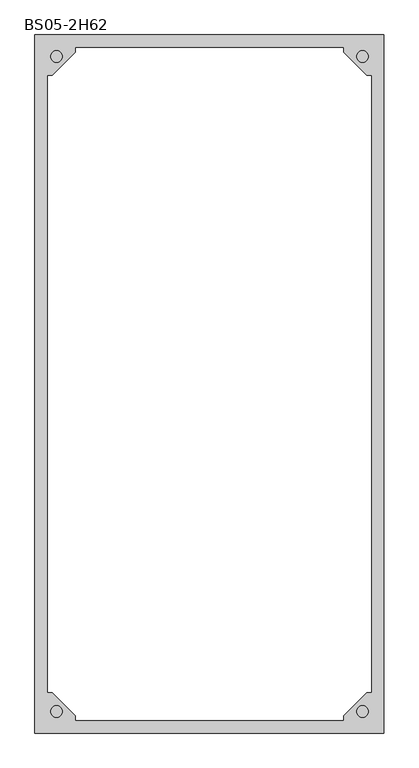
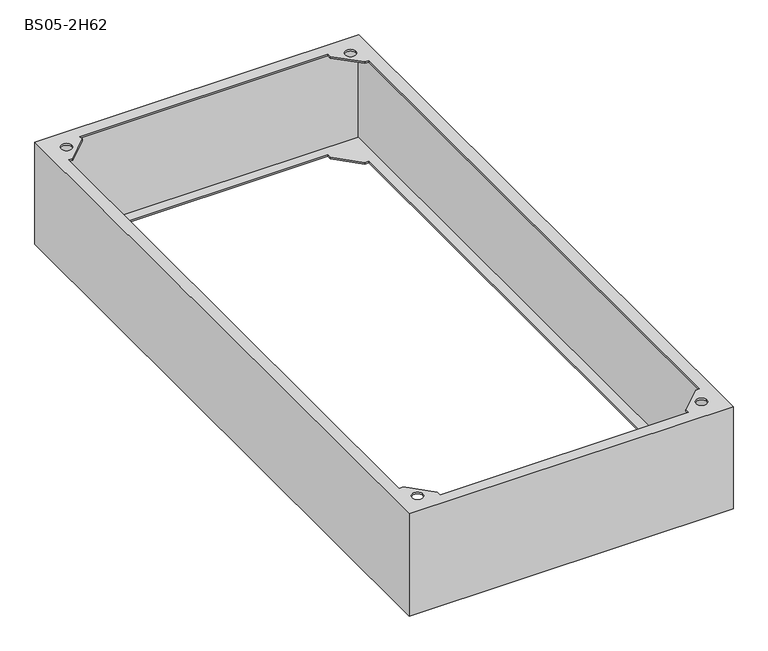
"""IFC4 building model written with IfcOpenShell, lengths in millimetres: proxy geometry, Цоколь для напольных шкафов : BS05-2H62."""

import ifcopenshell
import ifcopenshell.guid

model = None  # the IFC model being written
_history = None  # IfcOwnerHistory: only IFC2X3 demands one
_inside = {}  # id of a spatial element -> (the spatial element, [elements in it])
_under = {}  # id of a project, library or spatial element -> (it, [spatial elements below it])
_declared = {}  # id of a project -> (the project, [libraries it declares])
_typed = {}  # id of a type object -> (the type object, [elements of that type])
_made_of = {}  # id of a material, layer set ... -> (it, [elements and type objects made of it])


def new_model(schema):
    """Start an empty IFC model of exactly this schema.

    Asked for "IFC4X3", IfcOpenShell would pick the latest addendum, in which some entities
    have other attributes; the version numbers below select the first issue.
    IFC2X3 requires an IfcOwnerHistory on every rooted entity: one is made here for all.
    """
    global model, _history
    if schema == "IFC4X3":
        model = ifcopenshell.file(schema_version=(4, 3, 0, 0))
    else:
        model = ifcopenshell.file(schema=schema)
    _inside.clear()
    _under.clear()
    _declared.clear()
    _typed.clear()
    _made_of.clear()
    _history = None
    if model.schema == "IFC2X3":
        org = make("IfcOrganization", Name="unknown")
        user = make(
            "IfcPersonAndOrganization",
            ThePerson=make("IfcPerson", FamilyName="unknown"),
            TheOrganization=org,
        )
        app = make(
            "IfcApplication",
            ApplicationDeveloper=org,
            Version="unknown",
            ApplicationFullName="unknown",
            ApplicationIdentifier="unknown",
        )
        _history = make(
            "IfcOwnerHistory",
            OwningUser=user,
            OwningApplication=app,
            ChangeAction="ADDED",
            CreationDate=0,
        )
    return model


def make(cls, **values):
    """One entity of the class cls with the attributes given. An attribute that is None is left unset."""
    return model.create_entity(
        cls, **{name: value for name, value in values.items() if value is not None}
    )


def rooted(cls, **values):
    """An entity with a GlobalId (a new one), such as an element, a storey or a relation."""
    return make(cls, GlobalId=ifcopenshell.guid.new(), OwnerHistory=_history, **values)


def si_unit(unit_type, name, prefix=None):
    """IfcSIUnit, for example si_unit("LENGTHUNIT", "METRE", prefix="MILLI")."""
    return make("IfcSIUnit", UnitType=unit_type, Prefix=prefix, Name=name)


def assignment(units):
    """IfcUnitAssignment: the units of a project."""
    return None if units is None else make("IfcUnitAssignment", Units=units)


def point(xyz):
    """IfcCartesianPoint."""
    return None if xyz is None else make("IfcCartesianPoint", Coordinates=xyz)


def direction(xyz):
    """IfcDirection."""
    return None if xyz is None else make("IfcDirection", DirectionRatios=xyz)


def frame(location, z_axis=None, x_axis=None):
    """IfcAxis2Placement3D, a coordinate frame: its origin and axes. An axis left out is left unset."""
    return make(
        "IfcAxis2Placement3D",
        Location=point(location),
        Axis=direction(z_axis),
        RefDirection=direction(x_axis),
    )


def origin():
    """The frame at (0, 0, 0) with its axes left unset."""
    return frame((0.0, 0.0, 0.0))


def place(relative_to, where):
    """IfcLocalPlacement: puts the frame where relative to a parent placement (None: the world)."""
    return make(
        "IfcLocalPlacement", PlacementRelTo=relative_to, RelativePlacement=where
    )


def context(
    kind, dimensions, precision=None, world=None, true_north=None, identifier=None
):
    """IfcGeometricRepresentationContext, for example the 3D "Model" context."""
    return make(
        "IfcGeometricRepresentationContext",
        ContextIdentifier=identifier,
        ContextType=kind,
        CoordinateSpaceDimension=dimensions,
        Precision=precision,
        WorldCoordinateSystem=world,
        TrueNorth=true_north,
    )


def project(units=None, contexts=None):
    """IfcProject with its units and contexts."""
    return rooted(
        "IfcProject",
        Name="project",
        RepresentationContexts=contexts,
        UnitsInContext=assignment(units),
    )


def spatial(cls, under=None, at=None, **own):
    """A site, building, storey or space (cls), placed at a placement, below another one or the project."""
    s = rooted(cls, ObjectPlacement=at, **own)
    if under is not None:
        _under.setdefault(under.id(), (under, []))[1].append(s)
    return s


def polyline(points):
    """IfcPolyline through the points."""
    return make("IfcPolyline", Points=[point(p) for p in points])


def circle_curve(where, radius):
    """IfcCircle in the frame where."""
    return make("IfcCircle", Position=where, Radius=radius)


def shape(context_of_items, identifier, shape_type, items):
    """IfcShapeRepresentation: the items that make up one representation, for example the "Body"."""
    return make(
        "IfcShapeRepresentation",
        ContextOfItems=context_of_items,
        RepresentationIdentifier=identifier,
        RepresentationType=shape_type,
        Items=items,
    )


def source(mapping_origin, context_of_items, identifier, shape_type, items):
    """IfcRepresentationMap: a shape defined once, which mapped items show again and again."""
    return make(
        "IfcRepresentationMap",
        MappingOrigin=mapping_origin,
        MappedRepresentation=shape(context_of_items, identifier, shape_type, items),
    )


def transform(
    local_origin,
    x_axis=None,
    y_axis=None,
    z_axis=None,
    scale=None,
    scale2=None,
    scale3=None,
    uniform=True,
):
    """IfcCartesianTransformationOperator3D, or its non-uniform kind. x_axis, y_axis, z_axis: its Axis1, 2, 3."""
    if uniform:
        return make(
            "IfcCartesianTransformationOperator3D",
            Axis1=direction(x_axis),
            Axis2=direction(y_axis),
            LocalOrigin=point(local_origin),
            Scale=scale,
            Axis3=direction(z_axis),
        )
    return make(
        "IfcCartesianTransformationOperator3DnonUniform",
        Axis1=direction(x_axis),
        Axis2=direction(y_axis),
        LocalOrigin=point(local_origin),
        Scale=scale,
        Axis3=direction(z_axis),
        Scale2=scale2,
        Scale3=scale3,
    )


def mapped(mapping_source, mapping_target):
    """IfcMappedItem: shows the shape of a source again, moved by a transform."""
    return make(
        "IfcMappedItem", MappingSource=mapping_source, MappingTarget=mapping_target
    )


def made_of(thing, what):
    """Note that an element or type object is made of a material, layer set ...; save() writes the relation."""
    if what is not None:
        _made_of.setdefault(what.id(), (what, []))[1].append(thing)
    return thing


def element(
    cls,
    number,
    at=None,
    inside=None,
    cuts=None,
    type_object=None,
    material=None,
    context=None,
    identifier="Body",
    shape_type=None,
    held_by="IfcProductDefinitionShape",
    body=None,
    shapes=None,
    **own,
):
    """One element of the class cls, such as IfcWall. Its Tag is "e" and its number.

    at: its placement. inside: the storey or other place that contains it. cuts: it is an
    opening in that element (IfcRelVoidsElement). A single representation is given by context,
    identifier, shape_type and body (its items); several are given by shapes. held_by: the class
    of the entity that holds the representations. save() writes the other relations.
    """
    e = rooted(cls, Tag="e%d" % number, ObjectPlacement=at, **own)
    if body is not None:
        shapes = [shape(context, identifier, shape_type, body)]
    if shapes is not None:
        e.Representation = make(held_by, Representations=shapes)
    if inside is not None:
        _inside.setdefault(inside.id(), (inside, []))[1].append(e)
    if cuts is not None:
        rooted(
            "IfcRelVoidsElement", RelatingBuildingElement=cuts, RelatedOpeningElement=e
        )
    if type_object is not None:
        _typed.setdefault(type_object.id(), (type_object, []))[1].append(e)
    return made_of(e, material)


def aggregate(whole, parts):
    """IfcRelAggregates: a whole, such as a stair, and the parts it consists of."""
    return rooted("IfcRelAggregates", RelatingObject=whole, RelatedObjects=parts)


def save(model, path):
    """Write the relations noted so far, then the file.

    IfcRelAggregates (storeys below a building ...), IfcRelContainedInSpatialStructure (elements
    in a storey), IfcRelDefinesByType, IfcRelAssociatesMaterial and IfcRelDeclares: one each for
    every whole, place, type object, material and project.
    """
    for whole, parts in _under.values():
        aggregate(whole, parts)
    for where, things in _inside.values():
        rooted(
            "IfcRelContainedInSpatialStructure",
            RelatedElements=things,
            RelatingStructure=where,
        )
    for kind, things in _typed.values():
        rooted("IfcRelDefinesByType", RelatedObjects=things, RelatingType=kind)
    for what, things in _made_of.values():
        rooted("IfcRelAssociatesMaterial", RelatedObjects=things, RelatingMaterial=what)
    for by, libraries in _declared.values():
        rooted("IfcRelDeclares", RelatingContext=by, RelatedDefinitions=libraries)
    model.write(path)


def plane_surface(at):
    """IfcPlane: the flat surface through the origin of the frame at, square to its z axis."""
    return make("IfcPlane", Position=at)


def revolved_surface(curve, axis_point, axis_direction):
    """IfcSurfaceOfRevolution: the curve turned about the line through axis_point along axis_direction."""
    return make(
        "IfcSurfaceOfRevolution",
        SweptCurve=make("IfcArbitraryOpenProfileDef", ProfileType="CURVE", Curve=curve),
        AxisPosition=make("IfcAxis1Placement", Location=point(axis_point), Axis=direction(axis_direction)),
    )


def advanced_brep(points, edges, surfaces, faces):
    """IfcAdvancedBrep: a solid bounded by faces that lie on surfaces and meet in shared edges.

    An edge is (start, end): straight between two places in points (the first is 0);
    or (start, end, curve); or (start, end, curve, False) where it runs against its curve.
    A face is (place in surfaces, loops), or (place, loops, False) where it looks against
    its surface's normal. A loop lists edges by number (the first is 1), with a minus sign
    where the edge is run from its end to its start. The first loop is the outer one.
    """
    corners = [point(p) for p in points]
    vertices = [make("IfcVertexPoint", VertexGeometry=c) for c in corners]
    made = []
    for start, end, *more in edges:
        made.append(
            make(
                "IfcEdgeCurve",
                EdgeStart=vertices[start],
                EdgeEnd=vertices[end],
                EdgeGeometry=more[0] if more else make("IfcPolyline", Points=[corners[start], corners[end]]),
                SameSense=more[1] if len(more) > 1 else True,
            )
        )
    hull = []
    for where, loops, *sense in faces:
        bounds = []
        for j, loop in enumerate(loops):
            ring = [make("IfcOrientedEdge", EdgeElement=made[abs(k) - 1], Orientation=k > 0) for k in loop]
            bounds.append(
                make(
                    "IfcFaceOuterBound" if j == 0 else "IfcFaceBound",
                    Bound=make("IfcEdgeLoop", EdgeList=ring),
                    Orientation=True,
                )
            )
        hull.append(make("IfcAdvancedFace", Bounds=bounds, FaceSurface=surfaces[where], SameSense=sense[0] if sense else True))
    return make("IfcAdvancedBrep", Outer=make("IfcClosedShell", CfsFaces=hull))


def bs05_2h62_645fab27(model_context):
    return source(origin(), model_context, "Body", "AdvancedBrep", [
        advanced_brep(
        [(300.0, -600.0, 200.0), (300.0, -600.0, 197.0), (300.0, -600.0, 3.0), (300.0, -600.0, 0.0), (300.0, 600.0, 0.0), (300.0, 600.0, 3.0), (300.0, 600.0, 197.0), (300.0, 600.0, 200.0), (278.0, 530.0, 0.0), (278.0, -530.0, 0.0), (278.0, -530.0, 3.0), (278.0, 530.0, 3.0), (297.0, 597.0, 197.0), (297.0, 597.0, 3.0), (297.0, -597.0, 3.0), (297.0, -597.0, 197.0), (278.0, 530.0, 197.0), (278.0, -530.0, 197.0), (278.0, -530.0, 200.0), (278.0, 530.0, 200.0), (-300.0, -600.0, 200.0), (-300.0, -600.0, 197.0), (-300.0, -600.0, 3.0), (-300.0, -600.0, 0.0), (230.0, -578.0, 0.0), (-230.0, -578.0, 0.0), (-230.0, -578.0, 3.0), (230.0, -578.0, 3.0), (-297.0, -597.0, 3.0), (-297.0, -597.0, 197.0), (230.0, -578.0, 197.0), (-230.0, -578.0, 197.0), (-230.0, -578.0, 200.0), (230.0, -578.0, 200.0), (-300.0, 600.0, 200.0), (-300.0, 600.0, 197.0), (-300.0, 600.0, 3.0), (-300.0, 600.0, 0.0), (-278.0, -530.0, 0.0), (-278.0, 530.0, 0.0), (-278.0, 530.0, 3.0), (-278.0, -530.0, 3.0), (-297.0, 597.0, 3.0), (-297.0, 597.0, 197.0), (-278.0, -530.0, 197.0), (-278.0, 530.0, 197.0), (-278.0, 530.0, 200.0), (-278.0, -530.0, 200.0), (-230.0, -570.0, 200.0), (-270.0, -530.0, 200.0), (-270.0, 530.0, 200.0), (-230.0, 570.0, 200.0), (-230.0, 578.0, 200.0), (230.0, 578.0, 200.0), (230.0, 570.0, 200.0), (270.0, 530.0, 200.0), (270.0, -530.0, 200.0), (230.0, -570.0, 200.0), (-252.9289322, -562.9289322, 200.0), (-272.9289322, -562.9289322, 200.0), (272.9289322, -562.9289322, 200.0), (252.9289322, -562.9289322, 200.0), (-252.9289322, 562.9289322, 200.0), (-272.9289322, 562.9289322, 200.0), (272.9289322, 562.9289322, 200.0), (252.9289322, 562.9289322, 200.0), (270.0, 530.0, 0.0), (230.0, 570.0, 0.0), (230.0, 578.0, 0.0), (-230.0, 578.0, 0.0), (-230.0, 570.0, 0.0), (-270.0, 530.0, 0.0), (-270.0, -530.0, 0.0), (-230.0, -570.0, 0.0), (230.0, -570.0, 0.0), (270.0, -530.0, 0.0), (230.0, 578.0, 3.0), (-230.0, 578.0, 3.0), (270.0, -530.0, 3.0), (230.0, -570.0, 3.0), (-230.0, -570.0, 3.0), (-270.0, -530.0, 3.0), (-270.0, 530.0, 3.0), (-230.0, 570.0, 3.0), (230.0, 570.0, 3.0), (270.0, 530.0, 3.0), (-270.0, -530.0, 197.0), (-230.0, -570.0, 197.0), (230.0, -570.0, 197.0), (270.0, -530.0, 197.0), (270.0, 530.0, 197.0), (230.0, 570.0, 197.0), (230.0, 578.0, 197.0), (-230.0, 578.0, 197.0), (-230.0, 570.0, 197.0), (-270.0, 530.0, 197.0), (-252.9289322, -562.9289322, 197.0), (-272.9289322, -562.9289322, 197.0), (272.9289322, -562.9289322, 197.0), (252.9289322, -562.9289322, 197.0), (-252.9289322, 562.9289322, 197.0), (-272.9289322, 562.9289322, 197.0), (272.9289322, 562.9289322, 197.0), (252.9289322, 562.9289322, 197.0)],
        [
            (0, 1),
            (1, 2),
            (2, 3),
            (3, 4),
            (4, 5),
            (5, 6),
            (6, 7),
            (7, 0),
            (8, 9),
            (9, 10),
            (10, 11),
            (11, 8),
            (12, 13),
            (13, 14),
            (14, 15),
            (15, 12),
            (16, 17),
            (17, 18),
            (18, 19),
            (19, 16),
            (0, 20),
            (20, 21),
            (21, 22),
            (22, 23),
            (23, 3),
            (24, 25),
            (25, 26),
            (26, 27),
            (27, 24),
            (14, 28),
            (28, 29),
            (29, 15),
            (30, 31),
            (31, 32),
            (32, 33),
            (33, 30),
            (20, 34),
            (34, 35),
            (35, 36),
            (36, 37),
            (37, 23),
            (38, 39),
            (39, 40),
            (40, 41),
            (41, 38),
            (28, 42),
            (42, 43),
            (43, 29),
            (44, 45),
            (45, 46),
            (46, 47),
            (47, 44),
            (7, 34),
            (48, 49),
            (49, 47),
            (46, 50),
            (50, 51),
            (51, 52),
            (52, 53),
            (53, 54),
            (54, 55),
            (55, 19),
            (18, 56),
            (56, 57),
            (57, 33),
            (32, 48),
            (58, 59, circle_curve(frame((-262.9289322, -562.9289322, 200.0), z_axis=(0.0, 0.0, -1.0), x_axis=(-1.0, 0.0, 0.0)), 10.0)),
            (59, 58, circle_curve(frame((-262.9289322, -562.9289322, 200.0), z_axis=(0.0, 0.0, -1.0), x_axis=(-1.0, 0.0, 0.0)), 10.0)),
            (60, 61, circle_curve(frame((262.9289322, -562.9289322, 200.0), z_axis=(0.0, 0.0, -1.0), x_axis=(-1.0, 0.0, 0.0)), 10.0)),
            (61, 60, circle_curve(frame((262.9289322, -562.9289322, 200.0), z_axis=(0.0, 0.0, -1.0), x_axis=(-1.0, 0.0, 0.0)), 10.0)),
            (62, 63, circle_curve(frame((-262.9289322, 562.9289322, 200.0), z_axis=(0.0, 0.0, -1.0), x_axis=(-1.0, 0.0, 0.0)), 10.0)),
            (63, 62, circle_curve(frame((-262.9289322, 562.9289322, 200.0), z_axis=(0.0, 0.0, -1.0), x_axis=(-1.0, 0.0, 0.0)), 10.0)),
            (64, 65, circle_curve(frame((262.9289322, 562.9289322, 200.0), z_axis=(0.0, 0.0, -1.0), x_axis=(-1.0, 0.0, 0.0)), 10.0)),
            (65, 64, circle_curve(frame((262.9289322, 562.9289322, 200.0), z_axis=(0.0, 0.0, -1.0), x_axis=(-1.0, 0.0, 0.0)), 10.0)),
            (4, 37),
            (8, 66),
            (66, 67),
            (67, 68),
            (68, 69),
            (69, 70),
            (70, 71),
            (71, 39),
            (38, 72),
            (72, 73),
            (73, 25),
            (24, 74),
            (74, 75),
            (75, 9),
            (68, 76),
            (76, 77),
            (77, 69),
            (13, 42),
            (10, 78),
            (78, 79),
            (79, 27),
            (26, 80),
            (80, 81),
            (81, 41),
            (40, 82),
            (82, 83),
            (83, 77),
            (76, 84),
            (84, 85),
            (85, 11),
            (12, 43),
            (86, 87),
            (87, 31),
            (30, 88),
            (88, 89),
            (89, 17),
            (16, 90),
            (90, 91),
            (91, 92),
            (92, 93),
            (93, 94),
            (94, 95),
            (95, 45),
            (44, 86),
            (96, 97, circle_curve(frame((-262.9289322, -562.9289322, 197.0), z_axis=(0.0, 0.0, 1.0), x_axis=(-1.0, 0.0, 0.0)), 10.0)),
            (97, 96, circle_curve(frame((-262.9289322, -562.9289322, 197.0), z_axis=(0.0, 0.0, 1.0), x_axis=(-1.0, 0.0, 0.0)), 10.0)),
            (98, 99, circle_curve(frame((262.9289322, -562.9289322, 197.0), z_axis=(0.0, 0.0, 1.0), x_axis=(-1.0, 0.0, 0.0)), 10.0)),
            (99, 98, circle_curve(frame((262.9289322, -562.9289322, 197.0), z_axis=(0.0, 0.0, 1.0), x_axis=(-1.0, 0.0, 0.0)), 10.0)),
            (100, 101, circle_curve(frame((-262.9289322, 562.9289322, 197.0), z_axis=(0.0, 0.0, 1.0), x_axis=(-1.0, 0.0, 0.0)), 10.0)),
            (101, 100, circle_curve(frame((-262.9289322, 562.9289322, 197.0), z_axis=(0.0, 0.0, 1.0), x_axis=(-1.0, 0.0, 0.0)), 10.0)),
            (102, 103, circle_curve(frame((262.9289322, 562.9289322, 197.0), z_axis=(0.0, 0.0, 1.0), x_axis=(-1.0, 0.0, 0.0)), 10.0)),
            (103, 102, circle_curve(frame((262.9289322, 562.9289322, 197.0), z_axis=(0.0, 0.0, 1.0), x_axis=(-1.0, 0.0, 0.0)), 10.0)),
            (52, 93),
            (92, 53),
            (87, 48),
            (86, 49),
            (89, 56),
            (88, 57),
            (95, 50),
            (94, 51),
            (91, 54),
            (90, 55),
            (58, 96),
            (97, 59),
            (60, 98),
            (99, 61),
            (62, 100),
            (101, 63),
            (64, 102),
            (103, 65),
            (73, 80),
            (72, 81),
            (75, 78),
            (74, 79),
            (71, 82),
            (70, 83),
            (67, 84),
            (66, 85),
        ],
        [
            plane_surface(frame((300.0, 600.0, 200.0), z_axis=(1.0, 0.0, 0.0), x_axis=(0.0, -1.0, 0.0))),
            plane_surface(frame((278.0, 578.0, 0.0), z_axis=(-1.0, 0.0, 0.0), x_axis=(0.0, -1.0, 0.0))),
            plane_surface(frame((297.0, 597.0, 3.0), z_axis=(-1.0, 0.0, 0.0), x_axis=(0.0, -1.0, 0.0))),
            plane_surface(frame((278.0, 578.0, 197.0), z_axis=(-1.0, 0.0, 0.0), x_axis=(0.0, -1.0, 0.0))),
            plane_surface(frame((300.0, -600.0, 200.0), z_axis=(0.0, -1.0, 0.0), x_axis=(-1.0, 0.0, 0.0))),
            plane_surface(frame((278.0, -578.0, 0.0), z_axis=(0.0, 1.0, 0.0), x_axis=(-1.0, 0.0, 0.0))),
            plane_surface(frame((297.0, -597.0, 3.0), z_axis=(0.0, 1.0, 0.0), x_axis=(-1.0, 0.0, 0.0))),
            plane_surface(frame((278.0, -578.0, 197.0), z_axis=(0.0, 1.0, 0.0), x_axis=(-1.0, 0.0, 0.0))),
            plane_surface(frame((-300.0, -600.0, 200.0), z_axis=(-1.0, 0.0, 0.0), x_axis=(0.0, 1.0, 0.0))),
            plane_surface(frame((-278.0, -578.0, 0.0), z_axis=(1.0, 0.0, 0.0), x_axis=(0.0, 1.0, 0.0))),
            plane_surface(frame((-297.0, -597.0, 3.0), z_axis=(1.0, 0.0, 0.0), x_axis=(0.0, 1.0, 0.0))),
            plane_surface(frame((-278.0, -578.0, 197.0), z_axis=(1.0, 0.0, 0.0), x_axis=(0.0, 1.0, 0.0))),
            plane_surface(frame((-278.0, 578.0, 200.0), z_axis=(0.0, 0.0, 1.0), x_axis=(1.0, 0.0, 0.0))),
            plane_surface(frame((-300.0, 600.0, 200.0), z_axis=(0.0, 1.0, 0.0), x_axis=(1.0, 0.0, 0.0))),
            plane_surface(frame((-300.0, 600.0, 0.0), z_axis=(0.0, 0.0, -1.0), x_axis=(1.0, 0.0, 0.0))),
            plane_surface(frame((-278.0, 578.0, 0.0), z_axis=(0.0, -1.0, 0.0), x_axis=(1.0, 0.0, 0.0))),
            plane_surface(frame((-278.0, 578.0, 3.0), z_axis=(0.0, 0.0, 1.0), x_axis=(1.0, 0.0, 0.0))),
            plane_surface(frame((-297.0, 597.0, 3.0), z_axis=(0.0, -1.0, 0.0), x_axis=(1.0, 0.0, 0.0))),
            plane_surface(frame((-297.0, 597.0, 197.0), z_axis=(0.0, 0.0, -1.0), x_axis=(1.0, 0.0, 0.0))),
            plane_surface(frame((-278.0, 578.0, 197.0), z_axis=(0.0, -1.0, 0.0), x_axis=(1.0, 0.0, 0.0))),
            plane_surface(frame((-230.0, -600.0, 200.0), z_axis=(1.0, 0.0, 0.0), x_axis=(0.0, 0.0, -1.0))),
            plane_surface(frame((-230.0, -570.0, 200.0), z_axis=(0.7071067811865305, 0.7071067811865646, 0.0), x_axis=(0.0, 0.0, -1.0))),
            plane_surface(frame((-270.0, -530.0, 200.0), z_axis=(0.0, 1.0, 0.0), x_axis=(0.0, 0.0, -1.0))),
            plane_surface(frame((300.0, -530.0, 200.0), z_axis=(0.0, 1.0, 0.0), x_axis=(0.0, 0.0, -1.0))),
            plane_surface(frame((270.0, -530.0, 200.0), z_axis=(-0.7071067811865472, 0.7071067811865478, 0.0), x_axis=(0.0, 0.0, -1.0))),
            plane_surface(frame((230.0, -570.0, 200.0), z_axis=(-1.0, 0.0, 0.0), x_axis=(0.0, 0.0, -1.0))),
            plane_surface(frame((-300.0, 530.0, 200.0), z_axis=(0.0, -1.0, 0.0), x_axis=(0.0, 0.0, -1.0))),
            plane_surface(frame((-270.0, 530.0, 200.0), z_axis=(0.7071067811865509, -0.7071067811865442, 0.0), x_axis=(0.0, 0.0, -1.0))),
            plane_surface(frame((-230.0, 570.0, 200.0), z_axis=(1.0, 0.0, 0.0), x_axis=(0.0, 0.0, -1.0))),
            plane_surface(frame((230.0, 600.0, 200.0), z_axis=(-1.0, 0.0, 0.0), x_axis=(0.0, 0.0, -1.0))),
            plane_surface(frame((230.0, 570.0, 200.0), z_axis=(-0.7071067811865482, -0.707106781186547, 0.0), x_axis=(0.0, 0.0, -1.0))),
            plane_surface(frame((270.0, 530.0, 200.0), z_axis=(0.0, -1.0, 0.0), x_axis=(0.0, 0.0, -1.0))),
            revolved_surface(polyline([(-272.9289322, -562.9289322, 197.0), (-272.9289322, -562.9289322, 200.0)]), (-262.9289322, -562.9289322, 200.0), (0.0, 0.0, -1.0)),
            revolved_surface(polyline([(252.92893220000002, -562.9289322, 197.0), (252.92893220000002, -562.9289322, 200.0)]), (262.9289322, -562.9289322, 200.0), (0.0, 0.0, -1.0)),
            revolved_surface(polyline([(-272.9289322, 562.9289322, 197.0), (-272.9289322, 562.9289322, 200.0)]), (-262.9289322, 562.9289322, 200.0), (0.0, 0.0, -1.0)),
            revolved_surface(polyline([(252.92893220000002, 562.9289322, 197.0), (252.92893220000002, 562.9289322, 200.0)]), (262.9289322, 562.9289322, 200.0), (0.0, 0.0, -1.0)),
            plane_surface(frame((-230.0, -600.0, 3.0), z_axis=(1.0, 0.0, 0.0), x_axis=(0.0, 0.0, -1.0))),
            plane_surface(frame((-230.0, -570.0, 3.0), z_axis=(0.7071067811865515, 0.7071067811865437, 0.0), x_axis=(0.0, 0.0, -1.0))),
            plane_surface(frame((-270.0, -530.0, 3.0), z_axis=(0.0, 1.0, 0.0), x_axis=(0.0, 0.0, -1.0))),
            plane_surface(frame((300.0, -530.0, 3.0), z_axis=(0.0, 1.0, 0.0), x_axis=(0.0, 0.0, -1.0))),
            plane_surface(frame((270.0, -530.0, 3.0), z_axis=(-0.7071067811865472, 0.7071067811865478, 0.0), x_axis=(0.0, 0.0, -1.0))),
            plane_surface(frame((230.0, -570.0, 3.0), z_axis=(-1.0, 0.0, 0.0), x_axis=(0.0, 0.0, -1.0))),
            plane_surface(frame((-300.0, 530.0, 3.0), z_axis=(0.0, -1.0, 0.0), x_axis=(0.0, 0.0, -1.0))),
            plane_surface(frame((-270.0, 530.0, 3.0), z_axis=(0.7071067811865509, -0.7071067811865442, 0.0), x_axis=(0.0, 0.0, -1.0))),
            plane_surface(frame((-230.0, 570.0, 3.0), z_axis=(1.0, 0.0, 0.0), x_axis=(0.0, 0.0, -1.0))),
            plane_surface(frame((230.0, 600.0, 3.0), z_axis=(-1.0, 0.0, 0.0), x_axis=(0.0, 0.0, -1.0))),
            plane_surface(frame((230.0, 570.0, 3.0), z_axis=(-0.7071067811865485, -0.7071067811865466, 0.0), x_axis=(0.0, 0.0, -1.0))),
            plane_surface(frame((270.0, 530.0, 3.0), z_axis=(0.0, -1.0, 0.0), x_axis=(0.0, 0.0, -1.0))),
        ],
        [
            (0, [[1, 2, 3, 4, 5, 6, 7, 8]]),
            (1, [[9, 10, 11, 12]]),
            (2, [[13, 14, 15, 16]]),
            (3, [[17, 18, 19, 20]]),
            (4, [[-1, 21, 22, 23, 24, 25, -3, -2]]),
            (5, [[26, 27, 28, 29]]),
            (6, [[-15, 30, 31, 32]]),
            (7, [[33, 34, 35, 36]]),
            (8, [[-22, 37, 38, 39, 40, 41, -24, -23]]),
            (9, [[42, 43, 44, 45]]),
            (10, [[-31, 46, 47, 48]]),
            (11, [[49, 50, 51, 52]]),
            (12, [[-8, 53, -37, -21], [54, 55, -51, 56, 57, 58, 59, 60, 61, 62, -19, 63, 64, 65, -35, 66], [67, 68], [69, 70], [71, 72], [73, 74]]),
            (13, [[-38, -53, -7, -6, -5, 75, -40, -39]]),
            (14, [[-4, -25, -41, -75], [-9, 76, 77, 78, 79, 80, 81, 82, -42, 83, 84, 85, -26, 86, 87, 88]]),
            (15, [[-79, 89, 90, 91]]),
            (16, [[-14, 92, -46, -30], [-11, 93, 94, 95, -28, 96, 97, 98, -44, 99, 100, 101, -90, 102, 103, 104]]),
            (17, [[-92, -13, 105, -47]]),
            (18, [[-32, -48, -105, -16], [106, 107, -33, 108, 109, 110, -17, 111, 112, 113, 114, 115, 116, 117, -49, 118], [119, 120], [121, 122], [123, 124], [125, 126]]),
            (19, [[-59, 127, -114, 128]]),
            (20, [[129, -66, -34, -107]]),
            (21, [[-54, -129, -106, 130]]),
            (22, [[-130, -118, -52, -55]]),
            (23, [[131, -63, -18, -110]]),
            (24, [[-64, -131, -109, 132]]),
            (25, [[-132, -108, -36, -65]]),
            (26, [[133, -56, -50, -117]]),
            (27, [[-57, -133, -116, 134]]),
            (28, [[-134, -115, -127, -58]]),
            (29, [[135, -60, -128, -113]]),
            (30, [[-61, -135, -112, 136]]),
            (31, [[-136, -111, -20, -62]]),
            (32, [[-67, 137, -120, 138]]),
            (32, [[-68, -138, -119, -137]]),
            (33, [[-69, 139, -122, 140]]),
            (33, [[-70, -140, -121, -139]]),
            (34, [[-71, 141, -124, 142]]),
            (34, [[-72, -142, -123, -141]]),
            (35, [[-73, 143, -126, 144]]),
            (35, [[-74, -144, -125, -143]]),
            (36, [[145, -96, -27, -85]]),
            (37, [[-97, -145, -84, 146]]),
            (38, [[-146, -83, -45, -98]]),
            (39, [[147, -93, -10, -88]]),
            (40, [[-94, -147, -87, 148]]),
            (41, [[-148, -86, -29, -95]]),
            (42, [[149, -99, -43, -82]]),
            (43, [[-100, -149, -81, 150]]),
            (44, [[-150, -80, -91, -101]]),
            (45, [[151, -102, -89, -78]]),
            (46, [[-103, -151, -77, 152]]),
            (47, [[-152, -76, -12, -104]]),
        ],
    ),
    ])


if __name__ == "__main__":
    model = new_model("IFC4")
    model_context = context("Model", 3, world=origin())
    ifc_project = project(units=[si_unit("LENGTHUNIT", "METRE", prefix="MILLI")], contexts=[model_context])
    site = spatial("IfcSite", under=ifc_project)
    building = spatial("IfcBuilding", under=site)
    placement = place(None, origin())
    bs05_2h62_shape = bs05_2h62_645fab27(model_context)
    element("IfcBuildingElementProxy", 1, Name="Цоколь для напольных шкафов : BS05-2H62", ObjectType="Цоколь для напольных шкафов : BS05-2H62", at=placement, inside=building, context=model_context, shape_type="MappedRepresentation", body=[
        mapped(bs05_2h62_shape, transform((0.0, 0.0, 0.0), x_axis=(1.0, 0.0, 0.0), y_axis=(0.0, 1.0, 0.0), z_axis=(0.0, 0.0, 1.0))),
    ])
    save(model, "model.ifc")
